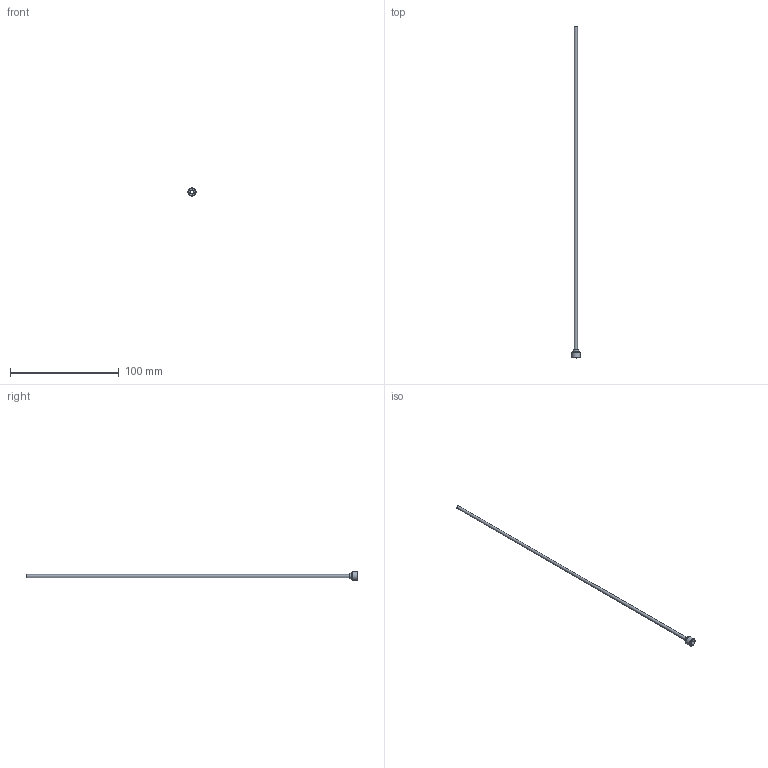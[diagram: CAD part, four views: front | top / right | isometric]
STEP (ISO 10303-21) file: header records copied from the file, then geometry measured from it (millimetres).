
FILE_DESCRIPTION(/* description */ (''),/* implementation_level */ '2;1');
FILE_NAME(/* name */ 'C:/Users/drich/Desktop/PT16-109-12 v2.step',/* time_stamp */ '2019-12-27T15:17:02-06:00',/* author */ (''),/* organization */ (''),/* preprocessor_version */ 'ST-DEVELOPER v18',/* originating_system */ 'Autodesk Translation Framework v8.12.0.6',/* authorisation */ '');
FILE_SCHEMA (('AUTOMOTIVE_DESIGN { 1 0 10303 214 3 1 1 }'));
Length unit declared in the file: inch
Products named in the file (1): PT16-109-12
Bounding box: 7.62 x 304.8 x 7.62 mm (x, y, z)
Volume: 656.9 mm3; surface area: 5148.7 mm2
Topology: 1 solids, 1 shells, 19 faces, 48 edges, 34 vertices
Faces by surface type: plane 11, cylinder 4, torus 2, cone 2
Full cylindrical faces by diameter (mm): 2.413 x1, 2.769 x1, 4.724 x1, 7.616 x1
Entity records: 633 total; most frequent: DIRECTION 112, CARTESIAN_POINT 102, ORIENTED_EDGE 96, EDGE_CURVE 48, AXIS2_PLACEMENT_3D 44, VERTEX_POINT 34, CIRCLE 24, EDGE_LOOP 24
